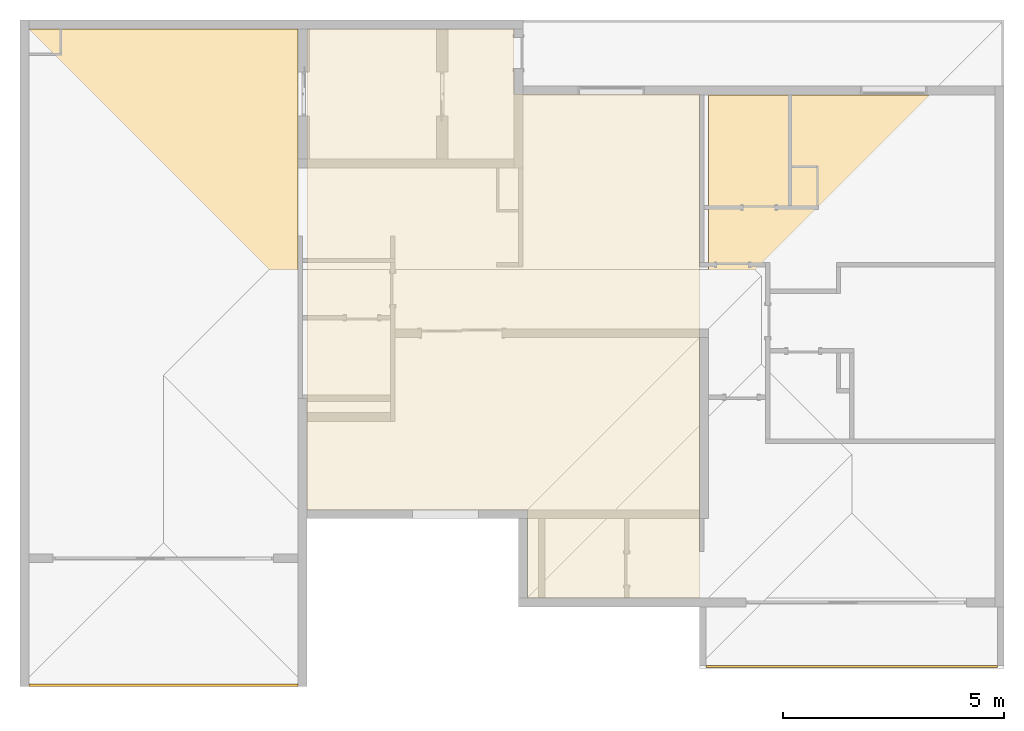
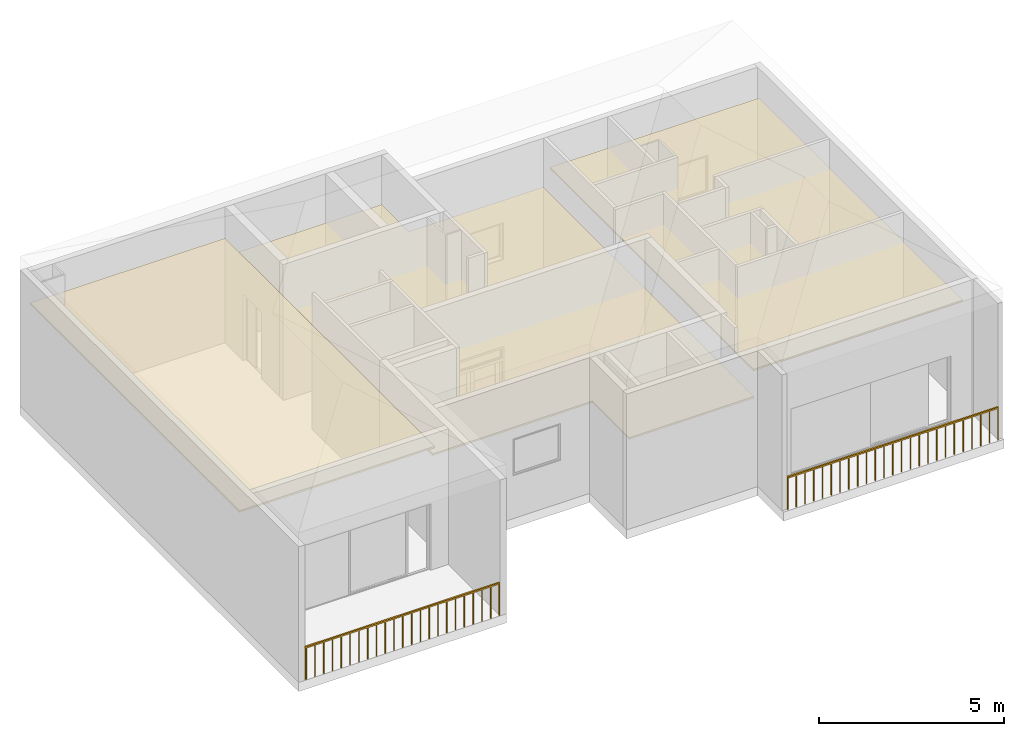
# One storey, part 7 of 8: 3 coverings, 2 railings.
"""IFC2X3 building model written with IfcOpenShell, lengths in metres."""

from ifc_helpers import new_model, entity, si_unit, converted_unit, derived_unit, direction, frame, frame_2d, origin, origin_2d_with_axis, place, context, subcontext, project, spatial, polyline, rectangle, outline, extrude, material, material_list, layer, layer_set, layer_usage, type_object, element, save


model = new_model("IFC2X3")

# Units and contexts
model_context = context("Model", 3, precision=1e-05, world=origin(), true_north=direction((6.123031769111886e-17, 1.0)))
body_context = subcontext(model_context, "Body", "Model", "MODEL_VIEW")
ifc_project = project(units=[si_unit("LENGTHUNIT", "METRE"), si_unit("AREAUNIT", "SQUARE_METRE"), si_unit("VOLUMEUNIT", "CUBIC_METRE"), converted_unit("PLANEANGLEUNIT", "DEGREE", entity("IfcRatioMeasure", 0.017453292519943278), si_unit("PLANEANGLEUNIT", "RADIAN"), dimensions=[0, 0, 0, 0, 0, 0, 0]), si_unit("MASSUNIT", "GRAM", prefix="KILO"), derived_unit("MASSDENSITYUNIT", [(si_unit("MASSUNIT", "GRAM", prefix="KILO"), 1), (si_unit("LENGTHUNIT", "METRE"), -3)]), derived_unit("MOMENTOFINERTIAUNIT", [(si_unit("LENGTHUNIT", "METRE"), 4)]), si_unit("TIMEUNIT", "SECOND"), si_unit("FREQUENCYUNIT", "HERTZ"), si_unit("THERMODYNAMICTEMPERATUREUNIT", "DEGREE_CELSIUS"), derived_unit("THERMALTRANSMITTANCEUNIT", [(si_unit("MASSUNIT", "GRAM", prefix="KILO"), 1), (si_unit("THERMODYNAMICTEMPERATUREUNIT", "KELVIN"), -1), (si_unit("TIMEUNIT", "SECOND"), -3)]), derived_unit("VOLUMETRICFLOWRATEUNIT", [(si_unit("LENGTHUNIT", "METRE"), 3), (si_unit("TIMEUNIT", "SECOND"), -1)]), derived_unit("MASSFLOWRATEUNIT", [(si_unit("MASSUNIT", "GRAM", prefix="KILO"), 1), (si_unit("TIMEUNIT", "SECOND"), -1)]), derived_unit("ROTATIONALFREQUENCYUNIT", [(si_unit("TIMEUNIT", "SECOND"), -1)]), si_unit("ELECTRICCURRENTUNIT", "AMPERE"), si_unit("ELECTRICVOLTAGEUNIT", "VOLT"), si_unit("POWERUNIT", "WATT"), si_unit("FORCEUNIT", "NEWTON", prefix="KILO"), si_unit("ILLUMINANCEUNIT", "LUX"), si_unit("LUMINOUSFLUXUNIT", "LUMEN"), si_unit("LUMINOUSINTENSITYUNIT", "CANDELA"), derived_unit("USERDEFINED", [(si_unit("MASSUNIT", "GRAM", prefix="KILO"), -1), (si_unit("LENGTHUNIT", "METRE"), -2), (si_unit("TIMEUNIT", "SECOND"), 3), (si_unit("LUMINOUSFLUXUNIT", "LUMEN"), 1)]), derived_unit("SOUNDPOWERUNIT", [(si_unit("MASSUNIT", "GRAM", prefix="KILO"), 1), (si_unit("LENGTHUNIT", "METRE"), 2), (si_unit("TIMEUNIT", "SECOND"), -3)]), derived_unit("SOUNDPRESSUREUNIT", [(si_unit("MASSUNIT", "GRAM", prefix="KILO"), 1), (si_unit("LENGTHUNIT", "METRE"), -1), (si_unit("TIMEUNIT", "SECOND"), -2)]), derived_unit("LINEARVELOCITYUNIT", [(si_unit("LENGTHUNIT", "METRE"), 1), (si_unit("TIMEUNIT", "SECOND"), -1)]), si_unit("PRESSUREUNIT", "PASCAL"), derived_unit("USERDEFINED", [(si_unit("LENGTHUNIT", "METRE"), -2), (si_unit("MASSUNIT", "GRAM", prefix="KILO"), 1), (si_unit("TIMEUNIT", "SECOND"), -2)]), derived_unit("LINEARFORCEUNIT", [(si_unit("MASSUNIT", "GRAM", prefix="KILO"), 1), (si_unit("LENGTHUNIT", "METRE"), 1), (si_unit("TIMEUNIT", "SECOND"), -2), (si_unit("LENGTHUNIT", "METRE"), -1)]), derived_unit("PLANARFORCEUNIT", [(si_unit("MASSUNIT", "GRAM", prefix="KILO"), 1), (si_unit("LENGTHUNIT", "METRE"), 1), (si_unit("TIMEUNIT", "SECOND"), -2), (si_unit("LENGTHUNIT", "METRE"), -2)])], contexts=[model_context])

# Site, building, storey
site_placement = place(None, origin())
site = spatial("IfcSite", under=ifc_project, at=site_placement, Name="Default", CompositionType="ELEMENT")
building_placement = place(site_placement, origin())
building = spatial("IfcBuilding", under=site, at=building_placement, CompositionType="ELEMENT")
storey_placement = place(building_placement, frame((0.0, 0.0, 5.639999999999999)))
storey = spatial("IfcBuildingStorey", under=building, at=storey_placement, Name="F1", CompositionType="ELEMENT", Elevation=5.639999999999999)

# Coverings
ifc_material_1 = material(Name="Metal - Stud Layer")
ifc_layer_1 = layer(ifc_material_1, 0.045)
ifc_material_2 = material(Name="Plasterboard")
ifc_layer_2 = layer(ifc_material_2, 0.011999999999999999)
ifc_layer_set = layer_set([ifc_layer_1, ifc_layer_2], Name="Compound Ceiling:Plain")
ifc_layer_usage_1 = layer_usage(ifc_layer_set, "AXIS3", "POSITIVE", 0.0)
covering_type_1 = type_object("IfcCoveringType", Name="Compound Ceiling:Plain", PredefinedType="CEILING")
covering_1_placement = place(storey_placement, origin())
element("IfcCovering", 1, at=covering_1_placement, inside=storey, type_object=covering_type_1, material=ifc_layer_usage_1, Name="Compound Ceiling:Plain", ObjectType="Compound Ceiling:Plain", PredefinedType="CEILING", context=body_context, shape_type="SweptSolid", body=[
    extrude(rectangle(XDim=6.099999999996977, YDim=11.350000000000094, at=frame_2d((-4.440892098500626e-16, -4.440892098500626e-16), x_axis=(1.0, 0.0))), frame((9.857683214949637, 0.12760701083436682, 3.399999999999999)), (0.0, 0.0, 1.0), 0.05700000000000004),
])
ifc_layer_usage_2 = layer_usage(ifc_layer_set, "AXIS3", "POSITIVE", 0.0)
covering_type_2 = type_object("IfcCoveringType", Name="Compound Ceiling:Plain", PredefinedType="CEILING")
covering_2_placement = place(storey_placement, origin())
element("IfcCovering", 2, at=covering_2_placement, inside=storey, type_object=covering_type_2, material=ifc_layer_usage_2, Name="Compound Ceiling:Plain", ObjectType="Compound Ceiling:Plain", PredefinedType="CEILING", context=body_context, shape_type="SweptSolid", body=[
    extrude(rectangle(XDim=6.549999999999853, YDim=11.025000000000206, at=frame_2d((4.218847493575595e-15, -8.881784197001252e-16), x_axis=(1.0, 0.0))), frame((25.482683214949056, -1.2098929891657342, 3.399999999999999)), (0.0, 0.0, 1.0), 0.05700000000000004),
])
ifc_layer_usage_3 = layer_usage(ifc_layer_set, "AXIS3", "POSITIVE", 0.0)
covering_type_3 = type_object("IfcCoveringType", Name="Compound Ceiling:Plain", PredefinedType="CEILING")
covering_3_placement = place(storey_placement, origin())
element("IfcCovering", 3, at=covering_3_placement, inside=storey, type_object=covering_type_3, material=ifc_layer_usage_3, Name="Compound Ceiling:Plain", ObjectType="Compound Ceiling:Plain", PredefinedType="CEILING", context=body_context, shape_type="SweptSolid", body=[
    extrude(outline(polyline([(0.3499999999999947, -6.581249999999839), (4.2500000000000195, -6.581249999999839), (4.250000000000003, 4.843749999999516), (0.050000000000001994, 4.843749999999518), (0.049999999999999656, 6.31875000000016), (-4.650000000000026, 6.3187500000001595), (-4.650000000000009, -4.581249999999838), (0.34999999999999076, -4.581249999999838), (0.3499999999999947, -6.581249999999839)])), frame((17.75768321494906, -0.5161429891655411, 2.799999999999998)), (0.0, 0.0, 1.0), 0.05700000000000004),
])

# Railings
ifc_material_3 = material(Name="<Unnamed>")
ifc_material_list_1 = material_list([ifc_material_3, ifc_material_3, ifc_material_3, ifc_material_3, ifc_material_3, ifc_material_3, ifc_material_3, ifc_material_3, ifc_material_3, ifc_material_3, ifc_material_3, ifc_material_3, ifc_material_3, ifc_material_3, ifc_material_3, ifc_material_3, ifc_material_3, ifc_material_3, ifc_material_3, ifc_material_3, ifc_material_3, ifc_material_3, ifc_material_3, ifc_material_3, ifc_material_3, ifc_material_3])
railing_1_placement = place(storey_placement, origin())
element("IfcRailing", 4, at=railing_1_placement, inside=storey, material=ifc_material_list_1, Name="Railing:1100mm", ObjectType="Railing:1100mm", PredefinedType="NOTDEFINED", context=body_context, shape_type="SweptSolid", body=[
    extrude(rectangle(XDim=0.02499999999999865, YDim=0.02499999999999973, at=origin_2d_with_axis()), frame((28.482683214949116, -8.647392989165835, 0.0)), (0.0, 0.0, 1.0), 1.0499999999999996),
    extrude(rectangle(XDim=0.02499999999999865, YDim=0.02499999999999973, at=frame_2d((4.330737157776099e-15, 0.0), x_axis=(1.0, 0.0))), frame((28.207683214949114, -8.647392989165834, 0.0)), (0.0, 0.0, 1.0), 1.0499999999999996),
    extrude(rectangle(XDim=0.02499999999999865, YDim=0.02499999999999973, at=origin_2d_with_axis()), frame((27.932683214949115, -8.647392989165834, 0.0)), (0.0, 0.0, 1.0), 1.0499999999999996),
    extrude(rectangle(XDim=0.02499999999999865, YDim=0.02499999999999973, at=frame_2d((0.0, 1.0824674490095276e-15), x_axis=(1.0, 0.0))), frame((27.657683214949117, -8.647392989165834, 0.0)), (0.0, 0.0, 1.0), 1.0499999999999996),
    extrude(rectangle(XDim=0.02499999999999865, YDim=0.02499999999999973, at=frame_2d((4.330737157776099e-15, 0.0), x_axis=(1.0, 0.0))), frame((27.382683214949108, -8.647392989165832, 0.0)), (0.0, 0.0, 1.0), 1.0499999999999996),
    extrude(rectangle(XDim=0.02499999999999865, YDim=0.02499999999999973, at=origin_2d_with_axis()), frame((27.107683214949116, -8.64739298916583, 0.0)), (0.0, 0.0, 1.0), 1.0499999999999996),
    extrude(rectangle(XDim=0.02499999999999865, YDim=0.02499999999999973, at=frame_2d((-4.330737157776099e-15, 0.0), x_axis=(1.0, 0.0))), frame((26.83268321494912, -8.64739298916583, 0.0)), (0.0, 0.0, 1.0), 1.0499999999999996),
    extrude(rectangle(XDim=0.02499999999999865, YDim=0.02499999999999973, at=frame_2d((0.0, -1.0824674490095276e-15), x_axis=(1.0, 0.0))), frame((26.557683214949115, -8.647392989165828, 0.0)), (0.0, 0.0, 1.0), 1.0499999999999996),
    extrude(rectangle(XDim=0.02499999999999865, YDim=0.02499999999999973, at=frame_2d((0.0, -1.0824674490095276e-15), x_axis=(1.0, 0.0))), frame((26.282683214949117, -8.647392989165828, 0.0)), (0.0, 0.0, 1.0), 1.0499999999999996),
    extrude(rectangle(XDim=0.02499999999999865, YDim=0.02499999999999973, at=frame_2d((-4.330737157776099e-15, 0.0), x_axis=(1.0, 0.0))), frame((26.007683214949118, -8.647392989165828, 0.0)), (0.0, 0.0, 1.0), 1.0499999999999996),
    extrude(rectangle(XDim=0.02499999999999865, YDim=0.02499999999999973, at=origin_2d_with_axis()), frame((25.732683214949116, -8.647392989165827, 0.0)), (0.0, 0.0, 1.0), 1.0499999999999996),
    extrude(rectangle(XDim=0.02499999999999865, YDim=0.02499999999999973, at=origin_2d_with_axis()), frame((25.457683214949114, -8.647392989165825, 0.0)), (0.0, 0.0, 1.0), 1.0499999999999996),
    extrude(rectangle(XDim=0.02499999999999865, YDim=0.02499999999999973, at=frame_2d((0.0, 1.0824674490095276e-15), x_axis=(1.0, 0.0))), frame((25.182683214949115, -8.647392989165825, 0.0)), (0.0, 0.0, 1.0), 1.0499999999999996),
    extrude(rectangle(XDim=0.02499999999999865, YDim=0.02499999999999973, at=origin_2d_with_axis()), frame((24.907683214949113, -8.647392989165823, 0.0)), (0.0, 0.0, 1.0), 1.0499999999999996),
    extrude(rectangle(XDim=0.02499999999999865, YDim=0.02499999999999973, at=origin_2d_with_axis()), frame((24.632683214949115, -8.647392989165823, 0.0)), (0.0, 0.0, 1.0), 1.0499999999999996),
    extrude(rectangle(XDim=0.02499999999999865, YDim=0.02499999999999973, at=origin_2d_with_axis()), frame((24.357683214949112, -8.647392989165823, 0.0)), (0.0, 0.0, 1.0), 1.0499999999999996),
    extrude(rectangle(XDim=0.02499999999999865, YDim=0.02499999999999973, at=origin_2d_with_axis()), frame((24.082683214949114, -8.647392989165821, 0.0)), (0.0, 0.0, 1.0), 1.0499999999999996),
    extrude(rectangle(XDim=0.02499999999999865, YDim=0.02499999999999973, at=frame_2d((0.0, -1.0824674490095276e-15), x_axis=(1.0, 0.0))), frame((23.807683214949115, -8.64739298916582, 0.0)), (0.0, 0.0, 1.0), 1.0499999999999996),
    extrude(rectangle(XDim=0.02499999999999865, YDim=0.02499999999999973, at=origin_2d_with_axis()), frame((23.532683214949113, -8.64739298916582, 0.0)), (0.0, 0.0, 1.0), 1.0499999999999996),
    extrude(rectangle(XDim=0.02499999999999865, YDim=0.02499999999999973, at=origin_2d_with_axis()), frame((23.257683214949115, -8.647392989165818, 0.0)), (0.0, 0.0, 1.0), 1.0499999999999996),
    extrude(rectangle(XDim=0.02499999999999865, YDim=0.02499999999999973, at=origin_2d_with_axis()), frame((22.982683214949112, -8.647392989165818, 0.0)), (0.0, 0.0, 1.0), 1.0499999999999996),
    extrude(rectangle(XDim=0.02499999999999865, YDim=0.02499999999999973, at=origin_2d_with_axis()), frame((22.707683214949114, -8.647392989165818, 0.0)), (0.0, 0.0, 1.0), 1.0499999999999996),
    extrude(rectangle(XDim=0.02499999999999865, YDim=0.02499999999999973, at=frame_2d((0.0, 1.0824674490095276e-15), x_axis=(1.0, 0.0))), frame((22.43268321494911, -8.647392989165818, 0.0)), (0.0, 0.0, 1.0), 1.0499999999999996),
    extrude(rectangle(XDim=0.02499999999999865, YDim=0.02499999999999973, at=frame_2d((4.330737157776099e-15, 0.0), x_axis=(1.0, 0.0))), frame((28.74518321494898, -8.647392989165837, 0.0)), (0.0, 0.0, 1.0), 1.0499999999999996),
    extrude(rectangle(XDim=0.02499999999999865, YDim=0.02499999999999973, at=origin_2d_with_axis()), frame((22.170183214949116, -8.647392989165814, 0.0)), (0.0, 0.0, 1.0), 1.0499999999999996),
    extrude(rectangle(XDim=6.599999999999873, YDim=0.050000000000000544, at=frame_2d((-2.220446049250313e-15, 5.412337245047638e-16), x_axis=(1.0, 0.0))), frame((25.457683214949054, -8.647392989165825, 1.0500000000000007)), (0.0, 0.0, 1.0), 0.04999999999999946),
])
ifc_material_list_2 = material_list([ifc_material_3, ifc_material_3, ifc_material_3, ifc_material_3, ifc_material_3, ifc_material_3, ifc_material_3, ifc_material_3, ifc_material_3, ifc_material_3, ifc_material_3, ifc_material_3, ifc_material_3, ifc_material_3, ifc_material_3, ifc_material_3, ifc_material_3, ifc_material_3, ifc_material_3, ifc_material_3, ifc_material_3, ifc_material_3, ifc_material_3, ifc_material_3, ifc_material_3])
railing_2_placement = place(storey_placement, origin())
element("IfcRailing", 5, at=railing_2_placement, inside=storey, material=ifc_material_list_2, Name="Railing:1100mm", ObjectType="Railing:1100mm", PredefinedType="NOTDEFINED", context=body_context, shape_type="SweptSolid", body=[
    extrude(rectangle(XDim=0.02499999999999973, YDim=0.02499999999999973, at=origin_2d_with_axis()), frame((6.857683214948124, -9.07239298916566, 0.0), z_axis=(0.0, 0.0, 1.0), x_axis=(-1.0, 0.0, 0.0)), (0.0, 0.0, 1.0), 1.0499999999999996),
    extrude(rectangle(XDim=0.02499999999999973, YDim=0.02499999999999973, at=frame_2d((-1.0824674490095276e-15, -1.0824674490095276e-15), x_axis=(1.0, 0.0))), frame((7.1326832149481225, -9.072392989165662, 0.0), z_axis=(0.0, 0.0, 1.0), x_axis=(-1.0, 0.0, 0.0)), (0.0, 0.0, 1.0), 1.0499999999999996),
    extrude(rectangle(XDim=0.02499999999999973, YDim=0.02499999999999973, at=origin_2d_with_axis()), frame((7.407683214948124, -9.072392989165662, 0.0), z_axis=(0.0, 0.0, 1.0), x_axis=(-1.0, 0.0, 0.0)), (0.0, 0.0, 1.0), 1.0499999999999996),
    extrude(rectangle(XDim=0.02499999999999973, YDim=0.02499999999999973, at=origin_2d_with_axis()), frame((7.682683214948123, -9.072392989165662, 0.0), z_axis=(0.0, 0.0, 1.0), x_axis=(-1.0, 0.0, 0.0)), (0.0, 0.0, 1.0), 1.0499999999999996),
    extrude(rectangle(XDim=0.02499999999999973, YDim=0.02499999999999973, at=origin_2d_with_axis()), frame((7.957683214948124, -9.072392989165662, 0.0), z_axis=(0.0, 0.0, 1.0), x_axis=(-1.0, 0.0, 0.0)), (0.0, 0.0, 1.0), 1.0499999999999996),
    extrude(rectangle(XDim=0.02499999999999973, YDim=0.02499999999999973, at=origin_2d_with_axis()), frame((8.232683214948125, -9.072392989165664, 0.0), z_axis=(0.0, 0.0, 1.0), x_axis=(-1.0, 0.0, 0.0)), (0.0, 0.0, 1.0), 1.0499999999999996),
    extrude(rectangle(XDim=0.02499999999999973, YDim=0.02499999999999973, at=frame_2d((0.0, 1.0824674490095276e-15), x_axis=(1.0, 0.0))), frame((8.507683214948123, -9.072392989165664, 0.0), z_axis=(0.0, 0.0, 1.0), x_axis=(-1.0, 0.0, 0.0)), (0.0, 0.0, 1.0), 1.0499999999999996),
    extrude(rectangle(XDim=0.02499999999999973, YDim=0.02499999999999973, at=origin_2d_with_axis()), frame((8.782683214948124, -9.072392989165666, 0.0), z_axis=(0.0, 0.0, 1.0), x_axis=(-1.0, 0.0, 0.0)), (0.0, 0.0, 1.0), 1.0499999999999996),
    extrude(rectangle(XDim=0.02499999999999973, YDim=0.02499999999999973, at=frame_2d((1.0824674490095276e-15, 0.0), x_axis=(1.0, 0.0))), frame((9.057683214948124, -9.072392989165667, 0.0), z_axis=(0.0, 0.0, 1.0), x_axis=(-1.0, 0.0, 0.0)), (0.0, 0.0, 1.0), 1.0499999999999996),
    extrude(rectangle(XDim=0.02499999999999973, YDim=0.02499999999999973, at=origin_2d_with_axis()), frame((9.332683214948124, -9.072392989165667, 0.0), z_axis=(0.0, 0.0, 1.0), x_axis=(-1.0, 0.0, 0.0)), (0.0, 0.0, 1.0), 1.0499999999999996),
    extrude(rectangle(XDim=0.02499999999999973, YDim=0.02499999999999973, at=frame_2d((-1.0824674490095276e-15, 0.0), x_axis=(1.0, 0.0))), frame((9.607683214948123, -9.07239298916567, 0.0), z_axis=(0.0, 0.0, 1.0), x_axis=(-1.0, 0.0, 0.0)), (0.0, 0.0, 1.0), 1.0499999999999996),
    extrude(rectangle(XDim=0.025000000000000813, YDim=0.02499999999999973, at=frame_2d((0.0, -1.0824674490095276e-15), x_axis=(1.0, 0.0))), frame((9.882683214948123, -9.072392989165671, 0.0), z_axis=(0.0, 0.0, 1.0), x_axis=(-1.0, 0.0, 0.0)), (0.0, 0.0, 1.0), 1.0499999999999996),
    extrude(rectangle(XDim=0.025000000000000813, YDim=0.02499999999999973, at=origin_2d_with_axis()), frame((10.157683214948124, -9.072392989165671, 0.0), z_axis=(0.0, 0.0, 1.0), x_axis=(-1.0, 0.0, 0.0)), (0.0, 0.0, 1.0), 1.0499999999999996),
    extrude(rectangle(XDim=0.025000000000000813, YDim=0.02499999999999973, at=origin_2d_with_axis()), frame((10.432683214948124, -9.072392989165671, 0.0), z_axis=(0.0, 0.0, 1.0), x_axis=(-1.0, 0.0, 0.0)), (0.0, 0.0, 1.0), 1.0499999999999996),
    extrude(rectangle(XDim=0.025000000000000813, YDim=0.02499999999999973, at=origin_2d_with_axis()), frame((10.707683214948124, -9.072392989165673, 0.0), z_axis=(0.0, 0.0, 1.0), x_axis=(-1.0, 0.0, 0.0)), (0.0, 0.0, 1.0), 1.0499999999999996),
    extrude(rectangle(XDim=0.025000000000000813, YDim=0.02499999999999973, at=origin_2d_with_axis()), frame((10.982683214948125, -9.072392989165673, 0.0), z_axis=(0.0, 0.0, 1.0), x_axis=(-1.0, 0.0, 0.0)), (0.0, 0.0, 1.0), 1.0499999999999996),
    extrude(rectangle(XDim=0.025000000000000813, YDim=0.02499999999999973, at=frame_2d((0.0, 1.0824674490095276e-15), x_axis=(1.0, 0.0))), frame((11.257683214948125, -9.072392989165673, 0.0), z_axis=(0.0, 0.0, 1.0), x_axis=(-1.0, 0.0, 0.0)), (0.0, 0.0, 1.0), 1.0499999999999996),
    extrude(rectangle(XDim=0.025000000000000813, YDim=0.02499999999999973, at=origin_2d_with_axis()), frame((11.532683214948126, -9.072392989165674, 0.0), z_axis=(0.0, 0.0, 1.0), x_axis=(-1.0, 0.0, 0.0)), (0.0, 0.0, 1.0), 1.0499999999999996),
    extrude(rectangle(XDim=0.025000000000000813, YDim=0.02499999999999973, at=origin_2d_with_axis()), frame((11.807683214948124, -9.072392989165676, 0.0), z_axis=(0.0, 0.0, 1.0), x_axis=(-1.0, 0.0, 0.0)), (0.0, 0.0, 1.0), 1.0499999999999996),
    extrude(rectangle(XDim=0.025000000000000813, YDim=0.02499999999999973, at=origin_2d_with_axis()), frame((12.082683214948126, -9.072392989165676, 0.0), z_axis=(0.0, 0.0, 1.0), x_axis=(-1.0, 0.0, 0.0)), (0.0, 0.0, 1.0), 1.0499999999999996),
    extrude(rectangle(XDim=0.025000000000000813, YDim=0.02499999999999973, at=origin_2d_with_axis()), frame((12.357683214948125, -9.072392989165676, 0.0), z_axis=(0.0, 0.0, 1.0), x_axis=(-1.0, 0.0, 0.0)), (0.0, 0.0, 1.0), 1.0499999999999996),
    extrude(rectangle(XDim=0.025000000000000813, YDim=0.02499999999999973, at=frame_2d((0.0, -1.0824674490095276e-15), x_axis=(1.0, 0.0))), frame((12.632683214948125, -9.07239298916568, 0.0), z_axis=(0.0, 0.0, 1.0), x_axis=(-1.0, 0.0, 0.0)), (0.0, 0.0, 1.0), 1.0499999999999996),
    extrude(rectangle(XDim=0.02499999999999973, YDim=0.02499999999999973, at=frame_2d((-1.0824674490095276e-15, 0.0), x_axis=(1.0, 0.0))), frame((6.820183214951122, -9.07239298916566, 0.0), z_axis=(0.0, 0.0, 1.0), x_axis=(-1.0, 0.0, 0.0)), (0.0, 0.0, 1.0), 1.0499999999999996),
    extrude(rectangle(XDim=0.025000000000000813, YDim=0.02499999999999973, at=origin_2d_with_axis()), frame((12.895183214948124, -9.07239298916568, 0.0), z_axis=(0.0, 0.0, 1.0), x_axis=(-1.0, 0.0, 0.0)), (0.0, 0.0, 1.0), 1.0499999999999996),
    extrude(rectangle(XDim=6.099999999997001, YDim=0.050000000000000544, at=frame_2d((-4.440892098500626e-16, -5.412337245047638e-16), x_axis=(1.0, 0.0))), frame((9.857683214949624, -9.072392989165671, 1.0500000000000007), z_axis=(0.0, 0.0, 1.0), x_axis=(-1.0, 0.0, 0.0)), (0.0, 0.0, 1.0), 0.04999999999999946),
])

save(model, "model.ifc")
